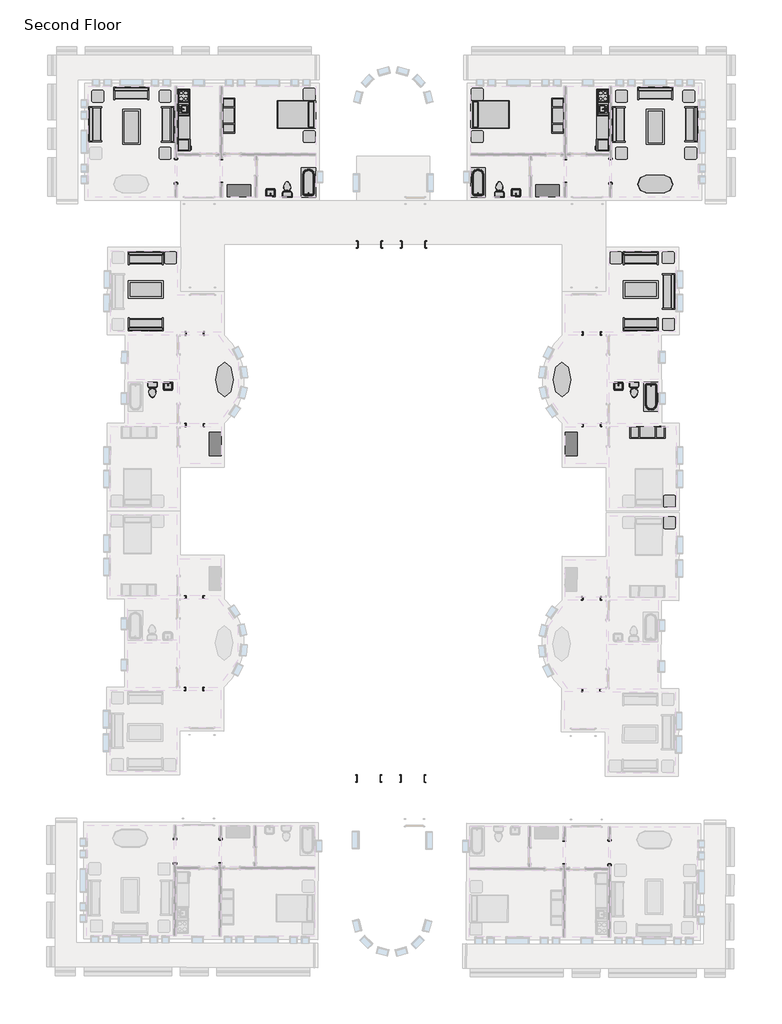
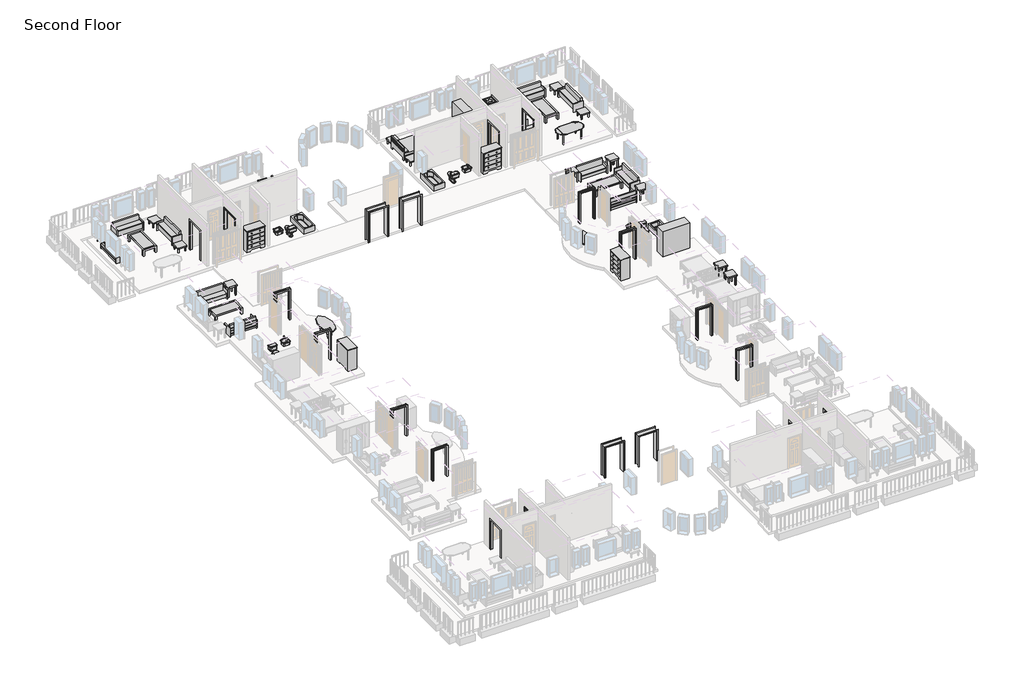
# One storey, part 8 of 8: 46 furniture elements, 28 proxies, 13 flow terminals.
"""IFC4 building model written with IfcOpenShell, lengths in millimetres."""

from ifc_helpers import new_model, si_unit, origin, place, context, project, spatial, transform, mapped, element, save
from components import m_cook_top_4_unit2_0615_x_500mm_249f3515, m_cook_top_4_unit2_0615_x_500mm_c91639ce, m_dishwasher_610_x_610_x_875mm_54ecfc4c, m_dishwasher_610_x_610_x_875mm_75336c20, m_kitchenette_medium_1372mm_e05c6bec, m_kitchenette_medium_1372mm_39f1532f, m_passage_opening_cased_0915_x_2134mm_b7ef4dee, m_passage_opening_cased_0915_x_2134mm_5e741ba8, m_passage_opening_cased_1220_x_2134mm_87a8d9c2, m_passage_opening_cased_1220_x_2134mm_f04423fa, m_passage_opening_cased_1220_x_2134mm_7296280d, m_passage_opening_cased_1220_x_2134mm_b92f2863, m_refrigerator_600_x_660mm_a466bf94, m_refrigerator_600_x_660mm_0a899b9c, m_sink_kitchen_island_450_x_450mm_f969cf2d, m_sink_kitchen_island_450_x_450mm_f6c2c534, m_sink_vanity_square_500_x_440mm_1e229b74, m_sink_vanity_square_500_x_440mm_f3cfe680, m_toilet_domestic_3d_m_toilet_domestic_3d_5cb52bd4, m_toilet_domestic_3d_m_toilet_domestic_3d_183bbd19, m_toilet_domestic_3d_m_toilet_domestic_3d_43425dfb, m_toilet_domestic_3d_m_toilet_domestic_3d_5530cc89, m_tub_rectangular_3d_m_tub_rectangular_3d_3a981ad5, m_tub_rectangular_3d_m_tub_rectangular_3d_c2020133, m_bed_shaker_1422_x_1981mm_double_096e7f55, m_bed_shaker_1422_x_1981mm_double_097b173b, m_counter_top_w_sink_hole_600mm_depth_1fb56bb9, m_counter_top_w_sink_hole_600mm_depth_7e9aa94d, m_dresser_1220_x_1525_x_0610mm_18e1f140, m_dresser_1220_x_1525_x_0610mm_4e5de046, m_entertainment_center_1830_x_1830_x_0610mm_f77a9b93, m_entertainment_center_1830_x_1830_x_0610mm_4f6058a0, m_sofa_1830mm_58d08fc1, m_sofa_1830mm_3da2e71b, m_sofa1_1830mm_f9e8a66b, m_sofa1_1830mm_493d6964, m_table_coffee_0915_x_1830_x_0457mm_134cd960, m_table_coffee_0915_x_1830_x_0457mm_595c1ebd, m_table_dining_oval_0915_x_1830mm_a7cfbe21, m_table_ellipse_1800_x_900mm_fd46d5a5, m_table_ellipse_1800_x_900mm_f7269293, m_table_end_cb6ea12e, m_table_end_aa2764bc, m_table_end_0610_x_0160mm_e0e5b28f, m_table_end_0610_x_0160mm_ccef8dc9

model = new_model("IFC4")

# Units and contexts
model_context = context("Model", 3, world=origin())
ifc_project = project(units=[si_unit("LENGTHUNIT", "METRE", prefix="MILLI")], contexts=[model_context])

# Site, building, storey
site = spatial("IfcSite", under=ifc_project)
building = spatial("IfcBuilding", under=site)
storey = spatial("IfcBuildingStorey", under=building, Name="Second Floor", Elevation=3048.0)

# Proxies
placement = place(None, origin())
m_cook_top_4_unit2_0615_x_500mm_shape = m_cook_top_4_unit2_0615_x_500mm_249f3515(model_context)
element("IfcBuildingElementProxy", 1, Name="M_Cook Top-4 Unit2 : 0615 x 500mm", ObjectType="M_Cook Top-4 Unit2 : 0615 x 500mm", at=placement, inside=storey, context=model_context, shape_type="MappedRepresentation", body=[
    mapped(m_cook_top_4_unit2_0615_x_500mm_shape, transform((-8054.9916203, 1914.054661, 3048.0), x_axis=(0.0, -1.0, 0.0), y_axis=(1.0, 0.0, 0.0), z_axis=(0.0, 0.0, 1.0))),
])
m_cook_top_4_unit2_0615_x_500mm_2_shape = m_cook_top_4_unit2_0615_x_500mm_c91639ce(model_context)
element("IfcBuildingElementProxy", 2, Name="M_Cook Top-4 Unit2 : 0615 x 500mm", ObjectType="M_Cook Top-4 Unit2 : 0615 x 500mm", at=placement, inside=storey, context=model_context, shape_type="MappedRepresentation", body=[
    mapped(m_cook_top_4_unit2_0615_x_500mm_2_shape, transform((-29859.1916203, 1914.054661, 3048.0), x_axis=(0.0, -1.0, 0.0), y_axis=(1.0, 0.0, 0.0), z_axis=(0.0, 0.0, 1.0))),
])
m_dishwasher_610_x_610_x_875mm_shape = m_dishwasher_610_x_610_x_875mm_54ecfc4c(model_context)
element("IfcBuildingElementProxy", 3, Name="M_Dishwasher : 610 x 610 x 875mm", ObjectType="M_Dishwasher : 610 x 610 x 875mm", at=placement, inside=storey, context=model_context, shape_type="MappedRepresentation", body=[
    mapped(m_dishwasher_610_x_610_x_875mm_shape, transform((-8321.6411851, 353.5721295, 3048.0), x_axis=(0.0, -1.0, 0.0), y_axis=(1.0, 0.0, 0.0), z_axis=(0.0, 0.0, 1.0))),
])
m_dishwasher_610_x_610_x_875mm_2_shape = m_dishwasher_610_x_610_x_875mm_75336c20(model_context)
element("IfcBuildingElementProxy", 4, Name="M_Dishwasher : 610 x 610 x 875mm", ObjectType="M_Dishwasher : 610 x 610 x 875mm", at=placement, inside=storey, context=model_context, shape_type="MappedRepresentation", body=[
    mapped(m_dishwasher_610_x_610_x_875mm_2_shape, transform((-29592.5420555, 353.5721295, 3048.0), x_axis=(0.0, -1.0, 0.0), y_axis=(1.0, 0.0, 0.0), z_axis=(0.0, 0.0, 1.0))),
])
m_kitchenette_medium_1372mm_shape = m_kitchenette_medium_1372mm_e05c6bec(model_context)
element("IfcBuildingElementProxy", 5, Name="M_Kitchenette - Medium : 1372mm", ObjectType="M_Kitchenette - Medium : 1372mm", at=placement, inside=storey, context=model_context, shape_type="MappedRepresentation", body=[
    mapped(m_kitchenette_medium_1372mm_shape, transform((-7749.9916203, 1589.7923659, 3048.0), x_axis=(0.0, -1.0, 0.0), y_axis=(1.0, 0.0, 0.0), z_axis=(0.0, 0.0, 1.0))),
])
m_kitchenette_medium_1372mm_2_shape = m_kitchenette_medium_1372mm_39f1532f(model_context)
element("IfcBuildingElementProxy", 6, Name="M_Kitchenette - Medium : 1372mm", ObjectType="M_Kitchenette - Medium : 1372mm", at=placement, inside=storey, context=model_context, shape_type="MappedRepresentation", body=[
    mapped(m_kitchenette_medium_1372mm_2_shape, transform((-30164.1916203, 1589.7923659, 3048.0), x_axis=(0.0, -1.0, 0.0), y_axis=(1.0, 0.0, 0.0), z_axis=(0.0, 0.0, 1.0))),
])
m_passage_opening_cased_0915_x_2134mm_shape = m_passage_opening_cased_0915_x_2134mm_b7ef4dee(model_context)
element("IfcBuildingElementProxy", 7, Name="M_Passage Opening-Cased : 0915 x 2134mm", ObjectType="M_Passage Opening-Cased : 0915 x 2134mm", at=placement, inside=storey, context=model_context, shape_type="MappedRepresentation", body=[
    mapped(m_passage_opening_cased_0915_x_2134mm_shape, transform((-29263.1209408, -10426.1057324, 3048.0), x_axis=(0.9999989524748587, -0.0014474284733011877, 0.0), y_axis=(0.0014474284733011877, 0.9999989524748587, 0.0), z_axis=(0.0, 0.0, 1.0))),
])
element("IfcBuildingElementProxy", 8, Name="M_Passage Opening-Cased : 0915 x 2134mm", ObjectType="M_Passage Opening-Cased : 0915 x 2134mm", at=placement, inside=storey, context=model_context, shape_type="MappedRepresentation", body=[
    mapped(m_passage_opening_cased_0915_x_2134mm_shape, transform((-29270.0280695, -15198.1007336, 3048.0), x_axis=(0.9999989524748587, -0.0014474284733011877, 0.0), y_axis=(0.0014474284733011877, 0.9999989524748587, 0.0), z_axis=(0.0, 0.0, 1.0))),
])
element("IfcBuildingElementProxy", 9, Name="M_Passage Opening-Cased : 0915 x 2134mm", ObjectType="M_Passage Opening-Cased : 0915 x 2134mm", at=placement, inside=storey, context=model_context, shape_type="MappedRepresentation", body=[
    mapped(m_passage_opening_cased_0915_x_2134mm_shape, transform((-8677.908724, -28973.7552644, 3048.0), x_axis=(-0.9999905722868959, 0.004342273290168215, 0.0), y_axis=(-0.004342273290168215, -0.9999905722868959, 0.0), z_axis=(0.0, 0.0, 1.0))),
])
element("IfcBuildingElementProxy", 10, Name="M_Passage Opening-Cased : 0915 x 2134mm", ObjectType="M_Passage Opening-Cased : 0915 x 2134mm", at=placement, inside=storey, context=model_context, shape_type="MappedRepresentation", body=[
    mapped(m_passage_opening_cased_0915_x_2134mm_shape, transform((-8657.1873959, -24201.8002534, 3048.0), x_axis=(-0.9999905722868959, 0.004342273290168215, 0.0), y_axis=(-0.004342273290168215, -0.9999905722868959, 0.0), z_axis=(0.0, 0.0, 1.0))),
])
m_passage_opening_cased_0915_x_2134mm_2_shape = m_passage_opening_cased_0915_x_2134mm_5e741ba8(model_context)
element("IfcBuildingElementProxy", 11, Name="M_Passage Opening-Cased : 0915 x 2134mm", ObjectType="M_Passage Opening-Cased : 0915 x 2134mm", at=placement, inside=storey, context=model_context, shape_type="MappedRepresentation", body=[
    mapped(m_passage_opening_cased_0915_x_2134mm_2_shape, transform((-8651.0622999, -10426.1057324, 3048.0), x_axis=(-0.9999989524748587, -0.0014474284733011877, 0.0), y_axis=(0.0014474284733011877, -0.9999989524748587, 0.0), z_axis=(0.0, 0.0, 1.0))),
])
element("IfcBuildingElementProxy", 12, Name="M_Passage Opening-Cased : 0915 x 2134mm", ObjectType="M_Passage Opening-Cased : 0915 x 2134mm", at=placement, inside=storey, context=model_context, shape_type="MappedRepresentation", body=[
    mapped(m_passage_opening_cased_0915_x_2134mm_2_shape, transform((-8644.1551712, -15198.1007336, 3048.0), x_axis=(-0.9999989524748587, -0.0014474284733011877, 0.0), y_axis=(0.0014474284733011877, -0.9999989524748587, 0.0), z_axis=(0.0, 0.0, 1.0))),
])
element("IfcBuildingElementProxy", 13, Name="M_Passage Opening-Cased : 0915 x 2134mm", ObjectType="M_Passage Opening-Cased : 0915 x 2134mm", at=placement, inside=storey, context=model_context, shape_type="MappedRepresentation", body=[
    mapped(m_passage_opening_cased_0915_x_2134mm_2_shape, transform((-29289.8809984, -28914.0863657, 3048.0), x_axis=(0.9999989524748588, -0.0014474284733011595, 0.0), y_axis=(0.0014474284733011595, 0.9999989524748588, 0.0), z_axis=(0.0, 0.0, 1.0))),
])
element("IfcBuildingElementProxy", 14, Name="M_Passage Opening-Cased : 0915 x 2134mm", ObjectType="M_Passage Opening-Cased : 0915 x 2134mm", at=placement, inside=storey, context=model_context, shape_type="MappedRepresentation", body=[
    mapped(m_passage_opening_cased_0915_x_2134mm_2_shape, transform((-29282.9738697, -24142.0913645, 3048.0), x_axis=(0.9999989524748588, -0.0014474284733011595, 0.0), y_axis=(0.0014474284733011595, 0.9999989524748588, 0.0), z_axis=(0.0, 0.0, 1.0))),
])
m_passage_opening_cased_1220_x_2134mm_shape = m_passage_opening_cased_1220_x_2134mm_87a8d9c2(model_context)
element("IfcBuildingElementProxy", 15, Name="M_Passage Opening-Cased : 1220 x 2134mm", ObjectType="M_Passage Opening-Cased : 1220 x 2134mm", at=placement, inside=storey, context=model_context, shape_type="MappedRepresentation", body=[
    mapped(m_passage_opening_cased_1220_x_2134mm_shape, transform((-7665.3416203, -1982.6925047, 3048.0), x_axis=(0.0, 1.0, 0.0), y_axis=(-1.0, 0.0, 0.0), z_axis=(0.0, 0.0, 1.0))),
])
element("IfcBuildingElementProxy", 16, Name="M_Passage Opening-Cased : 1220 x 2134mm", ObjectType="M_Passage Opening-Cased : 1220 x 2134mm", at=placement, inside=storey, context=model_context, shape_type="MappedRepresentation", body=[
    mapped(m_passage_opening_cased_1220_x_2134mm_shape, transform((-10019.0916203, -1999.0698181, 3048.0), x_axis=(0.0, -1.0, 0.0), y_axis=(1.0, 0.0, 0.0), z_axis=(0.0, 0.0, 1.0))),
])
element("IfcBuildingElementProxy", 17, Name="M_Passage Opening-Cased : 1220 x 2134mm", ObjectType="M_Passage Opening-Cased : 1220 x 2134mm", at=placement, inside=storey, context=model_context, shape_type="MappedRepresentation", body=[
    mapped(m_passage_opening_cased_1220_x_2134mm_shape, transform((-30300.0399955, -37354.6106974, 3048.0), x_axis=(-0.0028948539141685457, -0.9999958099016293, 0.0), y_axis=(0.9999958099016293, -0.0028948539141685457, 0.0), z_axis=(0.0, 0.0, 1.0))),
])
element("IfcBuildingElementProxy", 18, Name="M_Passage Opening-Cased : 1220 x 2134mm", ObjectType="M_Passage Opening-Cased : 1220 x 2134mm", at=placement, inside=storey, context=model_context, shape_type="MappedRepresentation", body=[
    mapped(m_passage_opening_cased_1220_x_2134mm_shape, transform((-27946.252448, -37345.047215, 3048.0), x_axis=(0.0028948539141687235, 0.9999958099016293, 0.0), y_axis=(-0.9999958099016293, 0.0028948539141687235, 0.0), z_axis=(0.0, 0.0, 1.0))),
])
m_passage_opening_cased_1220_x_2134mm_2_shape = m_passage_opening_cased_1220_x_2134mm_f04423fa(model_context)
element("IfcBuildingElementProxy", 19, Name="M_Passage Opening-Cased : 1220 x 2134mm", ObjectType="M_Passage Opening-Cased : 1220 x 2134mm", at=placement, inside=storey, context=model_context, shape_type="MappedRepresentation", body=[
    mapped(m_passage_opening_cased_1220_x_2134mm_2_shape, transform((-17916.280277, -5800.8811614, 3048.0), x_axis=(-1.0, 0.0, 0.0), y_axis=(0.0, -1.0, 0.0), z_axis=(0.0, 0.0, 1.0))),
])
element("IfcBuildingElementProxy", 20, Name="M_Passage Opening-Cased : 1220 x 2134mm", ObjectType="M_Passage Opening-Cased : 1220 x 2134mm", at=placement, inside=storey, context=model_context, shape_type="MappedRepresentation", body=[
    mapped(m_passage_opening_cased_1220_x_2134mm_2_shape, transform((-20185.9029636, -5800.8811614, 3048.0), x_axis=(1.0, 0.0, 0.0), y_axis=(0.0, 1.0, 0.0), z_axis=(0.0, 0.0, 1.0))),
])
m_passage_opening_cased_1220_x_2134mm_3_shape = m_passage_opening_cased_1220_x_2134mm_7296280d(model_context)
element("IfcBuildingElementProxy", 21, Name="M_Passage Opening-Cased : 1220 x 2134mm", ObjectType="M_Passage Opening-Cased : 1220 x 2134mm", at=placement, inside=storey, context=model_context, shape_type="MappedRepresentation", body=[
    mapped(m_passage_opening_cased_1220_x_2134mm_3_shape, transform((-30248.8416203, -1982.6925047, 3048.0), x_axis=(0.0, 1.0, 0.0), y_axis=(-1.0, 0.0, 0.0), z_axis=(0.0, 0.0, 1.0))),
])
element("IfcBuildingElementProxy", 22, Name="M_Passage Opening-Cased : 1220 x 2134mm", ObjectType="M_Passage Opening-Cased : 1220 x 2134mm", at=placement, inside=storey, context=model_context, shape_type="MappedRepresentation", body=[
    mapped(m_passage_opening_cased_1220_x_2134mm_3_shape, transform((-27895.0916203, -1999.0698181, 3048.0), x_axis=(0.0, -1.0, 0.0), y_axis=(1.0, 0.0, 0.0), z_axis=(0.0, 0.0, 1.0))),
])
element("IfcBuildingElementProxy", 23, Name="M_Passage Opening-Cased : 1220 x 2134mm", ObjectType="M_Passage Opening-Cased : 1220 x 2134mm", at=placement, inside=storey, context=model_context, shape_type="MappedRepresentation", body=[
    mapped(m_passage_opening_cased_1220_x_2134mm_3_shape, transform((-7716.6346226, -37419.9866307, 3048.0), x_axis=(-0.0028948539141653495, -0.9999958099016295, 0.0), y_axis=(0.9999958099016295, -0.0028948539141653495, 0.0), z_axis=(0.0, 0.0, 1.0))),
])
element("IfcBuildingElementProxy", 24, Name="M_Passage Opening-Cased : 1220 x 2134mm", ObjectType="M_Passage Opening-Cased : 1220 x 2134mm", at=placement, inside=storey, context=model_context, shape_type="MappedRepresentation", body=[
    mapped(m_passage_opening_cased_1220_x_2134mm_3_shape, transform((-10070.3273502, -37396.7956235, 3048.0), x_axis=(0.0028948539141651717, 0.9999958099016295, 0.0), y_axis=(-0.9999958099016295, 0.0028948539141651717, 0.0), z_axis=(0.0, 0.0, 1.0))),
])
m_passage_opening_cased_1220_x_2134mm_4_shape = m_passage_opening_cased_1220_x_2134mm_b92f2863(model_context)
element("IfcBuildingElementProxy", 25, Name="M_Passage Opening-Cased : 1220 x 2134mm", ObjectType="M_Passage Opening-Cased : 1220 x 2134mm", at=placement, inside=storey, context=model_context, shape_type="MappedRepresentation", body=[
    mapped(m_passage_opening_cased_1220_x_2134mm_4_shape, transform((-17956.4772285, -33572.1390027, 3048.0), x_axis=(-0.9999958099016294, 0.0028948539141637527, 0.0), y_axis=(-0.0028948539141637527, -0.9999958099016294, 0.0), z_axis=(0.0, 0.0, 1.0))),
])
element("IfcBuildingElementProxy", 26, Name="M_Passage Opening-Cased : 1220 x 2134mm", ObjectType="M_Passage Opening-Cased : 1220 x 2134mm", at=placement, inside=storey, context=model_context, shape_type="MappedRepresentation", body=[
    mapped(m_passage_opening_cased_1220_x_2134mm_4_shape, transform((-20226.0904051, -33565.5687766, 3048.0), x_axis=(0.9999958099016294, -0.0028948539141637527, 0.0), y_axis=(0.0028948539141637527, 0.9999958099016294, 0.0), z_axis=(0.0, 0.0, 1.0))),
])
m_refrigerator_600_x_660mm_shape = m_refrigerator_600_x_660mm_a466bf94(model_context)
element("IfcBuildingElementProxy", 27, Name="M_Refrigerator : 600 x 660mm", ObjectType="M_Refrigerator : 600 x 660mm", at=placement, inside=storey, context=model_context, shape_type="MappedRepresentation", body=[
    mapped(m_refrigerator_600_x_660mm_shape, transform((-8046.2067105, -687.7464817, 3048.0), x_axis=(0.0, -1.0, 0.0), y_axis=(1.0, 0.0, 0.0), z_axis=(0.0, 0.0, 1.0))),
])
m_refrigerator_600_x_660mm_2_shape = m_refrigerator_600_x_660mm_0a899b9c(model_context)
element("IfcBuildingElementProxy", 28, Name="M_Refrigerator : 600 x 660mm", ObjectType="M_Refrigerator : 600 x 660mm", at=placement, inside=storey, context=model_context, shape_type="MappedRepresentation", body=[
    mapped(m_refrigerator_600_x_660mm_2_shape, transform((-29867.9765301, -687.7464817, 3048.0), x_axis=(0.0, -1.0, 0.0), y_axis=(1.0, 0.0, 0.0), z_axis=(0.0, 0.0, 1.0))),
])

# Flow terminals
m_sink_kitchen_island_450_x_450mm_shape = m_sink_kitchen_island_450_x_450mm_f969cf2d(model_context)
element("IfcFlowTerminal", 29, ObjectType="M_Sink Kitchen-Island : 450 x 450mm", at=placement, inside=storey, context=model_context, shape_type="MappedRepresentation", body=[
    mapped(m_sink_kitchen_island_450_x_450mm_shape, transform((-8057.3370214, 1243.7439015, 3048.0), x_axis=(0.0, -1.0, 0.0), y_axis=(1.0, 0.0, 0.0), z_axis=(0.0, 0.0, 1.0))),
])
m_sink_kitchen_island_450_x_450mm_2_shape = m_sink_kitchen_island_450_x_450mm_f6c2c534(model_context)
element("IfcFlowTerminal", 30, ObjectType="M_Sink Kitchen-Island : 450 x 450mm", at=placement, inside=storey, context=model_context, shape_type="MappedRepresentation", body=[
    mapped(m_sink_kitchen_island_450_x_450mm_2_shape, transform((-29856.8462192, 1243.7439015, 3048.0), x_axis=(0.0, -1.0, 0.0), y_axis=(1.0, 0.0, 0.0), z_axis=(0.0, 0.0, 1.0))),
])
m_sink_vanity_square_500_x_440mm_shape = m_sink_vanity_square_500_x_440mm_1e229b74(model_context)
element("IfcFlowTerminal", 31, ObjectType="M_Sink Vanity-Square : 500 x 440mm", at=placement, inside=storey, context=model_context, shape_type="MappedRepresentation", body=[
    mapped(m_sink_vanity_square_500_x_440mm_shape, transform((-12563.5523798, -3158.1107603, 3048.0), x_axis=(-1.0, 0.0, 0.0), y_axis=(0.0, -1.0, 0.0), z_axis=(0.0, 0.0, 1.0))),
])
element("IfcFlowTerminal", 32, ObjectType="M_Sink Vanity-Square : 500 x 440mm", at=placement, inside=storey, context=model_context, shape_type="MappedRepresentation", body=[
    mapped(m_sink_vanity_square_500_x_440mm_shape, transform((-30677.3455366, -13134.5069817, 3048.0), x_axis=(0.9999989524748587, -0.001447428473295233, 0.0), y_axis=(0.0014474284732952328, 0.9999989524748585, 0.0), z_axis=(0.0, 0.0, 0.9999999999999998))),
])
m_sink_vanity_square_500_x_440mm_2_shape = m_sink_vanity_square_500_x_440mm_f3cfe680(model_context)
element("IfcFlowTerminal", 33, ObjectType="M_Sink Vanity-Square : 500 x 440mm", at=placement, inside=storey, context=model_context, shape_type="MappedRepresentation", body=[
    mapped(m_sink_vanity_square_500_x_440mm_2_shape, transform((-7236.8377041, -13134.5069817, 3048.0), x_axis=(-0.9999989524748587, -0.001447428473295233, 0.0), y_axis=(0.0014474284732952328, -0.9999989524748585, 0.0), z_axis=(0.0, 0.0, 0.9999999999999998))),
])
element("IfcFlowTerminal", 34, ObjectType="M_Sink Vanity-Square : 500 x 440mm", at=placement, inside=storey, context=model_context, shape_type="MappedRepresentation", body=[
    mapped(m_sink_vanity_square_500_x_440mm_2_shape, transform((-25350.6308609, -3158.1107603, 3048.0), x_axis=(1.0, 0.0, 0.0), y_axis=(0.0, 1.0, 0.0), z_axis=(0.0, 0.0, 1.0))),
])
m_toilet_domestic_3d_m_toilet_domestic_3d_shape = m_toilet_domestic_3d_m_toilet_domestic_3d_5cb52bd4(model_context)
m_toilet_domestic_3d_m_toilet_domestic_3d_2_shape = m_toilet_domestic_3d_m_toilet_domestic_3d_183bbd19(model_context)
element("IfcFlowTerminal", 35, ObjectType="M_Toilet-Domestic-3D : M_Toilet-Domestic-3D", at=placement, inside=storey, context=model_context, shape_type="MappedRepresentation", body=[
    mapped(m_toilet_domestic_3d_m_toilet_domestic_3d_shape, transform((-13440.7376477, -2845.185134, 3048.0), x_axis=(-1.0, 0.0, 0.0), y_axis=(0.0, -1.0, 0.0), z_axis=(0.0, 0.0, 1.0))),
    mapped(m_toilet_domestic_3d_m_toilet_domestic_3d_2_shape, transform((-13440.7376477, -2845.185134, 3048.0), x_axis=(-1.0, 0.0, 0.0), y_axis=(0.0, -1.0, 0.0), z_axis=(0.0, 0.0, 1.0))),
])
m_toilet_domestic_3d_m_toilet_domestic_3d_3_shape = m_toilet_domestic_3d_m_toilet_domestic_3d_43425dfb(model_context)
m_toilet_domestic_3d_m_toilet_domestic_3d_4_shape = m_toilet_domestic_3d_m_toilet_domestic_3d_5530cc89(model_context)
element("IfcFlowTerminal", 36, ObjectType="M_Toilet-Domestic-3D : M_Toilet-Domestic-3D", at=placement, inside=storey, context=model_context, shape_type="MappedRepresentation", body=[
    mapped(m_toilet_domestic_3d_m_toilet_domestic_3d_3_shape, transform((-24473.445593, -2845.185134, 3048.0), x_axis=(1.0, 0.0, 0.0), y_axis=(0.0, 1.0, 0.0), z_axis=(0.0, 0.0, 1.0))),
    mapped(m_toilet_domestic_3d_m_toilet_domestic_3d_4_shape, transform((-24473.445593, -2845.185134, 3048.0), x_axis=(1.0, 0.0, 0.0), y_axis=(0.0, 1.0, 0.0), z_axis=(0.0, 0.0, 1.0))),
])
element("IfcFlowTerminal", 37, ObjectType="M_Toilet-Domestic-3D1 : M_Toilet-Domestic-3D", at=placement, inside=storey, context=model_context, shape_type="MappedRepresentation", body=[
    mapped(m_toilet_domestic_3d_m_toilet_domestic_3d_shape, transform((-31475.0435019, -13456.0033339, 3048.0), x_axis=(0.9999989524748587, -0.001447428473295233, 0.0), y_axis=(0.0014474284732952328, 0.9999989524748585, 0.0), z_axis=(0.0, 0.0, 0.9999999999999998))),
    mapped(m_toilet_domestic_3d_m_toilet_domestic_3d_2_shape, transform((-31475.0435019, -13456.0033339, 3048.0), x_axis=(0.9999989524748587, -0.001447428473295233, 0.0), y_axis=(0.0014474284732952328, 0.9999989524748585, 0.0), z_axis=(0.0, 0.0, 0.9999999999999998))),
])
element("IfcFlowTerminal", 38, ObjectType="M_Toilet-Domestic-3D1 : M_Toilet-Domestic-3D", at=placement, inside=storey, context=model_context, shape_type="MappedRepresentation", body=[
    mapped(m_toilet_domestic_3d_m_toilet_domestic_3d_3_shape, transform((-6439.1397387, -13456.0033339, 3048.0), x_axis=(-0.9999989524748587, -0.001447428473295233, 0.0), y_axis=(0.0014474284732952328, -0.9999989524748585, 0.0), z_axis=(0.0, 0.0, 0.9999999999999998))),
    mapped(m_toilet_domestic_3d_m_toilet_domestic_3d_4_shape, transform((-6439.1397387, -13456.0033339, 3048.0), x_axis=(-0.9999989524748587, -0.001447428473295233, 0.0), y_axis=(0.0014474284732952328, -0.9999989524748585, 0.0), z_axis=(0.0, 0.0, 0.9999999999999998))),
])
m_tub_rectangular_3d_m_tub_rectangular_3d_shape = m_tub_rectangular_3d_m_tub_rectangular_3d_3a981ad5(model_context)
element("IfcFlowTerminal", 39, ObjectType="M_Tub-Rectangular-3D : M_Tub-Rectangular-3D", at=placement, inside=storey, context=model_context, shape_type="MappedRepresentation", body=[
    mapped(m_tub_rectangular_3d_m_tub_rectangular_3d_shape, transform((-15110.3416203, -2229.2781927, 3048.0), x_axis=(0.0, 1.0, 0.0), y_axis=(-1.0, 0.0, 0.0), z_axis=(0.0, 0.0, 1.0))),
])
element("IfcFlowTerminal", 40, ObjectType="M_Tub-Rectangular-3D : M_Tub-Rectangular-3D", at=placement, inside=storey, context=model_context, shape_type="MappedRepresentation", body=[
    mapped(m_tub_rectangular_3d_m_tub_rectangular_3d_shape, transform((-5003.7957874, -14069.8333606, 3048.0), x_axis=(0.0014474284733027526, -0.9999989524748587, 0.0), y_axis=(0.9999989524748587, 0.0014474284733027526, 0.0), z_axis=(0.0, 0.0, 1.0))),
])
m_tub_rectangular_3d_m_tub_rectangular_3d_2_shape = m_tub_rectangular_3d_m_tub_rectangular_3d_c2020133(model_context)
element("IfcFlowTerminal", 41, ObjectType="M_Tub-Rectangular-3D : M_Tub-Rectangular-3D", at=placement, inside=storey, context=model_context, shape_type="MappedRepresentation", body=[
    mapped(m_tub_rectangular_3d_m_tub_rectangular_3d_2_shape, transform((-22803.8416203, -2229.2781927, 3048.0), x_axis=(0.0, 1.0, 0.0), y_axis=(-1.0, 0.0, 0.0), z_axis=(0.0, 0.0, 1.0))),
])

# Furniture
m_bed_shaker_1422_x_1981mm_double_shape = m_bed_shaker_1422_x_1981mm_double_096e7f55(model_context)
element("IfcFurniture", 42, ObjectType="M_Bed-Shaker : 1422 x 1981mm - Double", at=placement, inside=storey, context=model_context, shape_type="MappedRepresentation", body=[
    mapped(m_bed_shaker_1422_x_1981mm_double_shape, transform((-14905.3416203, 963.9688386, 3048.0), x_axis=(0.0, 1.0, 0.0), y_axis=(-1.0, 0.0, 0.0), z_axis=(0.0, 0.0, 1.0))),
])
m_bed_shaker_1422_x_1981mm_double_2_shape = m_bed_shaker_1422_x_1981mm_double_097b173b(model_context)
element("IfcFurniture", 43, ObjectType="M_Bed-Shaker : 1422 x 1981mm - Double", at=placement, inside=storey, context=model_context, shape_type="MappedRepresentation", body=[
    mapped(m_bed_shaker_1422_x_1981mm_double_2_shape, transform((-23008.8416203, 963.9688386, 3048.0), x_axis=(0.0, 1.0, 0.0), y_axis=(-1.0, 0.0, 0.0), z_axis=(0.0, 0.0, 1.0))),
])
m_counter_top_w_sink_hole_600mm_depth_shape = m_counter_top_w_sink_hole_600mm_depth_1fb56bb9(model_context)
element("IfcFurniture", 44, ObjectType="M_Counter Top w Sink Hole : 600mm Depth", at=placement, inside=storey, context=model_context, shape_type="MappedRepresentation", body=[
    mapped(m_counter_top_w_sink_hole_600mm_depth_shape, transform((-7749.9916203, 1056.5923659, 3048.0), x_axis=(0.0, -1.0, 0.0), y_axis=(1.0, 0.0, 0.0), z_axis=(0.0, 0.0, 1.0))),
])
m_counter_top_w_sink_hole_600mm_depth_2_shape = m_counter_top_w_sink_hole_600mm_depth_7e9aa94d(model_context)
element("IfcFurniture", 45, ObjectType="M_Counter Top w Sink Hole : 600mm Depth", at=placement, inside=storey, context=model_context, shape_type="MappedRepresentation", body=[
    mapped(m_counter_top_w_sink_hole_600mm_depth_2_shape, transform((-30164.1916203, 1056.5923659, 3048.0), x_axis=(0.0, -1.0, 0.0), y_axis=(1.0, 0.0, 0.0), z_axis=(0.0, 0.0, 1.0))),
])
m_dresser_1220_x_1525_x_0610mm_shape = m_dresser_1220_x_1525_x_0610mm_18e1f140(model_context)
element("IfcFurniture", 46, ObjectType="M_Dresser : 1220 x 1525 x 0610mm", at=placement, inside=storey, context=model_context, shape_type="MappedRepresentation", body=[
    mapped(m_dresser_1220_x_1525_x_0610mm_shape, transform((-10667.6483605, -2647.7182073, 3048.0), x_axis=(1.0, 0.0, 0.0), y_axis=(0.0, 1.0, 0.0), z_axis=(0.0, 0.0, 1.0))),
])
element("IfcFurniture", 47, ObjectType="M_Dresser : 1220 x 1525 x 0610mm", at=placement, inside=storey, context=model_context, shape_type="MappedRepresentation", body=[
    mapped(m_dresser_1220_x_1525_x_0610mm_shape, transform((-28574.6164889, -15914.9147832, 3048.0), x_axis=(0.0014474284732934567, 0.9999989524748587, 0.0), y_axis=(-0.9999989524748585, 0.0014474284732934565, 0.0), z_axis=(0.0, 0.0, 0.9999999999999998))),
])
m_dresser_1220_x_1525_x_0610mm_2_shape = m_dresser_1220_x_1525_x_0610mm_4e5de046(model_context)
element("IfcFurniture", 48, ObjectType="M_Dresser : 1220 x 1525 x 0610mm", at=placement, inside=storey, context=model_context, shape_type="MappedRepresentation", body=[
    mapped(m_dresser_1220_x_1525_x_0610mm_2_shape, transform((-9339.5667518, -15914.9147832, 3048.0), x_axis=(-0.0014474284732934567, 0.9999989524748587, 0.0), y_axis=(-0.9999989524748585, -0.0014474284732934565, 0.0), z_axis=(0.0, 0.0, 0.9999999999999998))),
])
element("IfcFurniture", 49, ObjectType="M_Dresser : 1220 x 1525 x 0610mm", at=placement, inside=storey, context=model_context, shape_type="MappedRepresentation", body=[
    mapped(m_dresser_1220_x_1525_x_0610mm_2_shape, transform((-27246.5348802, -2647.7182073, 3048.0), x_axis=(-1.0, 0.0, 0.0), y_axis=(0.0, -1.0, 0.0), z_axis=(0.0, 0.0, 1.0))),
])
m_entertainment_center_1830_x_1830_x_0610mm_shape = m_entertainment_center_1830_x_1830_x_0610mm_f77a9b93(model_context)
element("IfcFurniture", 50, ObjectType="M_Entertainment center : 1830 x 1830 x 0610mm", at=placement, inside=storey, context=model_context, shape_type="MappedRepresentation", body=[
    mapped(m_entertainment_center_1830_x_1830_x_0610mm_shape, transform((-10818.2416203, 891.1188386, 3048.0), x_axis=(0.0, 1.0, 0.0), y_axis=(-1.0, 0.0, 0.0), z_axis=(0.0, 0.0, 1.0))),
])
m_entertainment_center_1830_x_1830_x_0610mm_2_shape = m_entertainment_center_1830_x_1830_x_0610mm_4f6058a0(model_context)
element("IfcFurniture", 51, ObjectType="M_Entertainment center : 1830 x 1830 x 0610mm", at=placement, inside=storey, context=model_context, shape_type="MappedRepresentation", body=[
    mapped(m_entertainment_center_1830_x_1830_x_0610mm_2_shape, transform((-5741.0312966, -15980.2994888, 3048.0), x_axis=(0.9999989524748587, 0.0014474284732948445, 0.0), y_axis=(-0.0014474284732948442, 0.9999989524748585, 0.0), z_axis=(0.0, 0.0, 0.9999999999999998))),
])
element("IfcFurniture", 52, ObjectType="M_Entertainment center : 1830 x 1830 x 0610mm", at=placement, inside=storey, context=model_context, shape_type="MappedRepresentation", body=[
    mapped(m_entertainment_center_1830_x_1830_x_0610mm_2_shape, transform((-27095.9416203, 891.1188386, 3048.0), x_axis=(0.0, 1.0, 0.0), y_axis=(-1.0, 0.0, 0.0), z_axis=(0.0, 0.0, 1.0))),
])
m_sofa_1830mm_shape = m_sofa_1830mm_58d08fc1(model_context)
element("IfcFurniture", 53, ObjectType="M_Sofa : 1830mm", at=placement, inside=storey, context=model_context, shape_type="MappedRepresentation", body=[
    mapped(m_sofa_1830mm_shape, transform((-5413.7121121, 1899.9647403, 3048.0), x_axis=(1.0, 0.0, 0.0), y_axis=(0.0, 1.0, 0.0), z_axis=(0.0, 0.0, 1.0))),
])
element("IfcFurniture", 54, ObjectType="M_Sofa : 1830mm", at=placement, inside=storey, context=model_context, shape_type="MappedRepresentation", body=[
    mapped(m_sofa_1830mm_shape, transform((-3617.1736471, 517.2688343, 3048.0), x_axis=(0.0, -1.0, 0.0), y_axis=(1.0, 0.0, 0.0), z_axis=(0.0, 0.0, 1.0))),
])
element("IfcFurniture", 55, ObjectType="M_Sofa : 1830mm", at=placement, inside=storey, context=model_context, shape_type="MappedRepresentation", body=[
    mapped(m_sofa_1830mm_shape, transform((-7088.437522, 355.7483468, 3048.0), x_axis=(0.0, 1.0, 0.0), y_axis=(-1.0, 0.0, 0.0), z_axis=(0.0, 0.0, 1.0))),
])
m_sofa_1830mm_2_shape = m_sofa_1830mm_3da2e71b(model_context)
element("IfcFurniture", 56, ObjectType="M_Sofa : 1830mm", at=placement, inside=storey, context=model_context, shape_type="MappedRepresentation", body=[
    mapped(m_sofa_1830mm_2_shape, transform((-32500.4711285, 1899.9647403, 3048.0), x_axis=(-1.0, 0.0, 0.0), y_axis=(0.0, -1.0, 0.0), z_axis=(0.0, 0.0, 1.0))),
])
element("IfcFurniture", 57, ObjectType="M_Sofa : 1830mm", at=placement, inside=storey, context=model_context, shape_type="MappedRepresentation", body=[
    mapped(m_sofa_1830mm_2_shape, transform((-34297.0095936, 517.2688343, 3048.0), x_axis=(0.0, -1.0, 0.0), y_axis=(1.0, 0.0, 0.0), z_axis=(0.0, 0.0, 1.0))),
])
element("IfcFurniture", 58, ObjectType="M_Sofa : 1830mm", at=placement, inside=storey, context=model_context, shape_type="MappedRepresentation", body=[
    mapped(m_sofa_1830mm_2_shape, transform((-30825.7457187, 355.7483468, 3048.0), x_axis=(0.0, 1.0, 0.0), y_axis=(-1.0, 0.0, 0.0), z_axis=(0.0, 0.0, 1.0))),
])
m_sofa1_1830mm_shape = m_sofa1_1830mm_f9e8a66b(model_context)
element("IfcFurniture", 59, ObjectType="M_Sofa1 : 1830mm", at=placement, inside=storey, context=model_context, shape_type="MappedRepresentation", body=[
    mapped(m_sofa1_1830mm_shape, transform((-31753.247914, -9808.5967065, 3048.0), x_axis=(-0.9999989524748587, 0.0014474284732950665, 0.0), y_axis=(-0.0014474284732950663, -0.9999989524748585, 0.0), z_axis=(0.0, 0.0, 0.9999999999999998))),
])
element("IfcFurniture", 60, ObjectType="M_Sofa1 : 1830mm", at=placement, inside=storey, context=model_context, shape_type="MappedRepresentation", body=[
    mapped(m_sofa1_1830mm_shape, transform((-31889.4482513, -6671.4544767, 3048.0), x_axis=(0.9999989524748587, -0.001447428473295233, 0.0), y_axis=(0.0014474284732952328, 0.9999989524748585, 0.0), z_axis=(0.0, 0.0, 0.9999999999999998))),
])
m_sofa1_1830mm_2_shape = m_sofa1_1830mm_493d6964(model_context)
element("IfcFurniture", 61, ObjectType="M_Sofa1 : 1830mm", at=placement, inside=storey, context=model_context, shape_type="MappedRepresentation", body=[
    mapped(m_sofa1_1830mm_2_shape, transform((-4803.866496, -8323.9054813, 3048.0), x_axis=(-0.0014474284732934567, 0.9999989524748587, 0.0), y_axis=(-0.9999989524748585, -0.0014474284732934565, 0.0), z_axis=(0.0, 0.0, 0.9999999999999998))),
])
element("IfcFurniture", 62, ObjectType="M_Sofa1 : 1830mm", at=placement, inside=storey, context=model_context, shape_type="MappedRepresentation", body=[
    mapped(m_sofa1_1830mm_2_shape, transform((-6160.9353266, -9808.5967065, 3048.0), x_axis=(0.9999989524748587, 0.0014474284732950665, 0.0), y_axis=(-0.0014474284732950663, 0.9999989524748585, 0.0), z_axis=(0.0, 0.0, 0.9999999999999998))),
])
element("IfcFurniture", 63, ObjectType="M_Sofa1 : 1830mm", at=placement, inside=storey, context=model_context, shape_type="MappedRepresentation", body=[
    mapped(m_sofa1_1830mm_2_shape, transform((-6024.7349893, -6671.4544767, 3048.0), x_axis=(-0.9999989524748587, -0.001447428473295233, 0.0), y_axis=(0.0014474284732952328, -0.9999989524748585, 0.0), z_axis=(0.0, 0.0, 0.9999999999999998))),
])
m_table_coffee_0915_x_1830_x_0457mm_shape = m_table_coffee_0915_x_1830_x_0457mm_134cd960(model_context)
element("IfcFurniture", 64, ObjectType="M_Table-Coffee : 0915 x 1830 x 0457mm", at=placement, inside=storey, context=model_context, shape_type="MappedRepresentation", body=[
    mapped(m_table_coffee_0915_x_1830_x_0457mm_shape, transform((-5248.1305425, 287.8530719, 3048.0), x_axis=(0.0, 1.0, 0.0), y_axis=(-1.0, 0.0, 0.0), z_axis=(0.0, 0.0, 1.0))),
])
element("IfcFurniture", 65, ObjectType="M_Table-Coffee : 0915 x 1830 x 0457mm", at=placement, inside=storey, context=model_context, shape_type="MappedRepresentation", body=[
    mapped(m_table_coffee_0915_x_1830_x_0457mm_shape, transform((-31802.8209497, -8059.4661414, 3048.0), x_axis=(-0.9999989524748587, 0.0014474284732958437, 0.0), y_axis=(-0.0014474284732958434, -0.9999989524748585, 0.0), z_axis=(0.0, 0.0, 0.9999999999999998))),
])
m_table_coffee_0915_x_1830_x_0457mm_2_shape = m_table_coffee_0915_x_1830_x_0457mm_595c1ebd(model_context)
element("IfcFurniture", 66, ObjectType="M_Table-Coffee : 0915 x 1830 x 0457mm", at=placement, inside=storey, context=model_context, shape_type="MappedRepresentation", body=[
    mapped(m_table_coffee_0915_x_1830_x_0457mm_2_shape, transform((-6111.362291, -8059.4661414, 3048.0), x_axis=(0.9999989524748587, 0.0014474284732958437, 0.0), y_axis=(-0.0014474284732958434, 0.9999989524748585, 0.0), z_axis=(0.0, 0.0, 0.9999999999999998))),
])
element("IfcFurniture", 67, ObjectType="M_Table-Coffee : 0915 x 1830 x 0457mm", at=placement, inside=storey, context=model_context, shape_type="MappedRepresentation", body=[
    mapped(m_table_coffee_0915_x_1830_x_0457mm_2_shape, transform((-32666.0526981, 287.8530719, 3048.0), x_axis=(0.0, 1.0, 0.0), y_axis=(-1.0, 0.0, 0.0), z_axis=(0.0, 0.0, 1.0))),
])
m_table_dining_oval_0915_x_1830mm_shape = m_table_dining_oval_0915_x_1830mm_a7cfbe21(model_context)
element("IfcFurniture", 68, ObjectType="M_Table-Dining Oval : 0915 x 1830mm", at=placement, inside=storey, context=model_context, shape_type="MappedRepresentation", body=[
    mapped(m_table_dining_oval_0915_x_1830mm_shape, transform((-4941.5219482, -2305.2828007, 3048.0), x_axis=(1.0, 0.0, 0.0), y_axis=(0.0, 1.0, 0.0), z_axis=(0.0, 0.0, 1.0))),
])
m_table_ellipse_1800_x_900mm_shape = m_table_ellipse_1800_x_900mm_fd46d5a5(model_context)
element("IfcFurniture", 69, ObjectType="M_Table-Ellipse : 1800 x 900mm", at=placement, inside=storey, context=model_context, shape_type="MappedRepresentation", body=[
    mapped(m_table_ellipse_1800_x_900mm_shape, transform((-27726.9892362, -12831.2316926, 3048.0), x_axis=(0.0014474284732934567, 0.9999989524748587, 0.0), y_axis=(-0.9999989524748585, 0.0014474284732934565, 0.0), z_axis=(0.0, 0.0, 0.9999999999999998))),
])
m_table_ellipse_1800_x_900mm_2_shape = m_table_ellipse_1800_x_900mm_f7269293(model_context)
element("IfcFurniture", 70, ObjectType="M_Table-Ellipse : 1800 x 900mm", at=placement, inside=storey, context=model_context, shape_type="MappedRepresentation", body=[
    mapped(m_table_ellipse_1800_x_900mm_2_shape, transform((-10187.1940045, -12831.2316926, 3048.0), x_axis=(-0.0014474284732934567, 0.9999989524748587, 0.0), y_axis=(-0.9999989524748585, -0.0014474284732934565, 0.0), z_axis=(0.0, 0.0, 0.9999999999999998))),
])
m_table_end_shape = m_table_end_cb6ea12e(model_context)
element("IfcFurniture", 71, ObjectType="M_Table-End : 0610 x 0160mm altered height", at=placement, inside=storey, context=model_context, shape_type="MappedRepresentation", body=[
    mapped(m_table_end_shape, transform((-7407.0752506, 1748.7188386, 3048.0), x_axis=(1.0, 0.0, 0.0), y_axis=(0.0, 1.0, 0.0), z_axis=(0.0, 0.0, 1.0))),
])
element("IfcFurniture", 72, ObjectType="M_Table-End : 0610 x 0160mm altered height", at=placement, inside=storey, context=model_context, shape_type="MappedRepresentation", body=[
    mapped(m_table_end_shape, transform((-3907.0752506, 1748.7188386, 3048.0), x_axis=(1.0, 0.0, 0.0), y_axis=(0.0, 1.0, 0.0), z_axis=(0.0, 0.0, 1.0))),
])
element("IfcFurniture", 73, ObjectType="M_Table-End : 0610 x 0160mm altered height", at=placement, inside=storey, context=model_context, shape_type="MappedRepresentation", body=[
    mapped(m_table_end_shape, transform((-3807.0752506, -1222.7811614, 3048.0), x_axis=(1.0, 0.0, 0.0), y_axis=(0.0, 1.0, 0.0), z_axis=(0.0, 0.0, 1.0))),
])
element("IfcFurniture", 74, ObjectType="M_Table-End : 0610 x 0160mm altered height", at=placement, inside=storey, context=model_context, shape_type="MappedRepresentation", body=[
    mapped(m_table_end_shape, transform((-7407.0752506, -1222.7811614, 3048.0), x_axis=(1.0, 0.0, 0.0), y_axis=(0.0, 1.0, 0.0), z_axis=(0.0, 0.0, 1.0))),
])
element("IfcFurniture", 75, ObjectType="M_Table-End : 0610 x 0160mm altered height", at=placement, inside=storey, context=model_context, shape_type="MappedRepresentation", body=[
    mapped(m_table_end_shape, transform((-14899.0752506, -351.2811614, 3048.0), x_axis=(1.0, 0.0, 0.0), y_axis=(0.0, 1.0, 0.0), z_axis=(0.0, 0.0, 1.0))),
])
element("IfcFurniture", 76, ObjectType="M_Table-End : 0610 x 0160mm altered height", at=placement, inside=storey, context=model_context, shape_type="MappedRepresentation", body=[
    mapped(m_table_end_shape, transform((-14899.0752506, 1848.7188386, 3048.0), x_axis=(1.0, 0.0, 0.0), y_axis=(0.0, 1.0, 0.0), z_axis=(0.0, 0.0, 1.0))),
])
m_table_end_2_shape = m_table_end_aa2764bc(model_context)
element("IfcFurniture", 77, ObjectType="M_Table-End : 0610 x 0160mm altered height", at=placement, inside=storey, context=model_context, shape_type="MappedRepresentation", body=[
    mapped(m_table_end_2_shape, transform((-30507.10799, 1748.7188386, 3048.0), x_axis=(-1.0, 0.0, 0.0), y_axis=(0.0, -1.0, 0.0), z_axis=(0.0, 0.0, 1.0))),
])
element("IfcFurniture", 78, ObjectType="M_Table-End : 0610 x 0160mm altered height", at=placement, inside=storey, context=model_context, shape_type="MappedRepresentation", body=[
    mapped(m_table_end_2_shape, transform((-34007.10799, 1748.7188386, 3048.0), x_axis=(-1.0, 0.0, 0.0), y_axis=(0.0, -1.0, 0.0), z_axis=(0.0, 0.0, 1.0))),
])
element("IfcFurniture", 79, ObjectType="M_Table-End : 0610 x 0160mm altered height", at=placement, inside=storey, context=model_context, shape_type="MappedRepresentation", body=[
    mapped(m_table_end_2_shape, transform((-30507.10799, -1222.7811614, 3048.0), x_axis=(-1.0, 0.0, 0.0), y_axis=(0.0, -1.0, 0.0), z_axis=(0.0, 0.0, 1.0))),
])
element("IfcFurniture", 80, ObjectType="M_Table-End : 0610 x 0160mm altered height", at=placement, inside=storey, context=model_context, shape_type="MappedRepresentation", body=[
    mapped(m_table_end_2_shape, transform((-23015.10799, -351.2811614, 3048.0), x_axis=(-1.0, 0.0, 0.0), y_axis=(0.0, -1.0, 0.0), z_axis=(0.0, 0.0, 1.0))),
])
element("IfcFurniture", 81, ObjectType="M_Table-End : 0610 x 0160mm altered height", at=placement, inside=storey, context=model_context, shape_type="MappedRepresentation", body=[
    mapped(m_table_end_2_shape, transform((-23015.10799, 1848.7188386, 3048.0), x_axis=(-1.0, 0.0, 0.0), y_axis=(0.0, -1.0, 0.0), z_axis=(0.0, 0.0, 1.0))),
])
m_table_end_0610_x_0160mm_shape = m_table_end_0610_x_0160mm_e0e5b28f(model_context)
element("IfcFurniture", 82, ObjectType="M_Table-End : 0610 x 0160mm", at=placement, inside=storey, context=model_context, shape_type="MappedRepresentation", body=[
    mapped(m_table_end_0610_x_0160mm_shape, transform((-30381.8640012, -6801.216265, 3048.0), x_axis=(0.0014474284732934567, 0.9999989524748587, 0.0), y_axis=(-0.9999989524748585, 0.0014474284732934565, 0.0), z_axis=(0.0, 0.0, 0.9999999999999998))),
])
element("IfcFurniture", 83, ObjectType="M_Table-End : 0610 x 0160mm", at=placement, inside=storey, context=model_context, shape_type="MappedRepresentation", body=[
    mapped(m_table_end_0610_x_0160mm_shape, transform((-4754.7308298, -19957.2221394, 3048.0), x_axis=(-0.004342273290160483, -0.9999905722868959, 0.0), y_axis=(0.9999905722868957, -0.004342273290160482, 0.0), z_axis=(0.0, 0.0, 0.9999999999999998))),
])
m_table_end_0610_x_0160mm_2_shape = m_table_end_0610_x_0160mm_ccef8dc9(model_context)
element("IfcFurniture", 84, ObjectType="M_Table-End : 0610 x 0160mm", at=placement, inside=storey, context=model_context, shape_type="MappedRepresentation", body=[
    mapped(m_table_end_0610_x_0160mm_2_shape, transform((-4754.0023903, -19453.9581041, 3048.0), x_axis=(-0.0014474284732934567, 0.9999989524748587, 0.0), y_axis=(-0.9999989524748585, -0.0014474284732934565, 0.0), z_axis=(0.0, 0.0, 0.9999999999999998))),
])
element("IfcFurniture", 85, ObjectType="M_Table-End : 0610 x 0160mm", at=placement, inside=storey, context=model_context, shape_type="MappedRepresentation", body=[
    mapped(m_table_end_0610_x_0160mm_2_shape, transform((-4807.2995119, -10267.2756246, 3048.0), x_axis=(-0.0014474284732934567, 0.9999989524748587, 0.0), y_axis=(-0.9999989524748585, -0.0014474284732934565, 0.0), z_axis=(0.0, 0.0, 0.9999999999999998))),
])
element("IfcFurniture", 86, ObjectType="M_Table-End : 0610 x 0160mm", at=placement, inside=storey, context=model_context, shape_type="MappedRepresentation", body=[
    mapped(m_table_end_0610_x_0160mm_2_shape, transform((-4812.3220887, -6797.2792595, 3048.0), x_axis=(-0.0014474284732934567, 0.9999989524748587, 0.0), y_axis=(-0.9999989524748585, -0.0014474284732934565, 0.0), z_axis=(0.0, 0.0, 0.9999999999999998))),
])
element("IfcFurniture", 87, ObjectType="M_Table-End : 0610 x 0160mm", at=placement, inside=storey, context=model_context, shape_type="MappedRepresentation", body=[
    mapped(m_table_end_0610_x_0160mm_2_shape, transform((-7532.3192395, -6801.216265, 3048.0), x_axis=(-0.0014474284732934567, 0.9999989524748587, 0.0), y_axis=(-0.9999989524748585, -0.0014474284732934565, 0.0), z_axis=(0.0, 0.0, 0.9999999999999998))),
])

save(model, "model.ifc")
